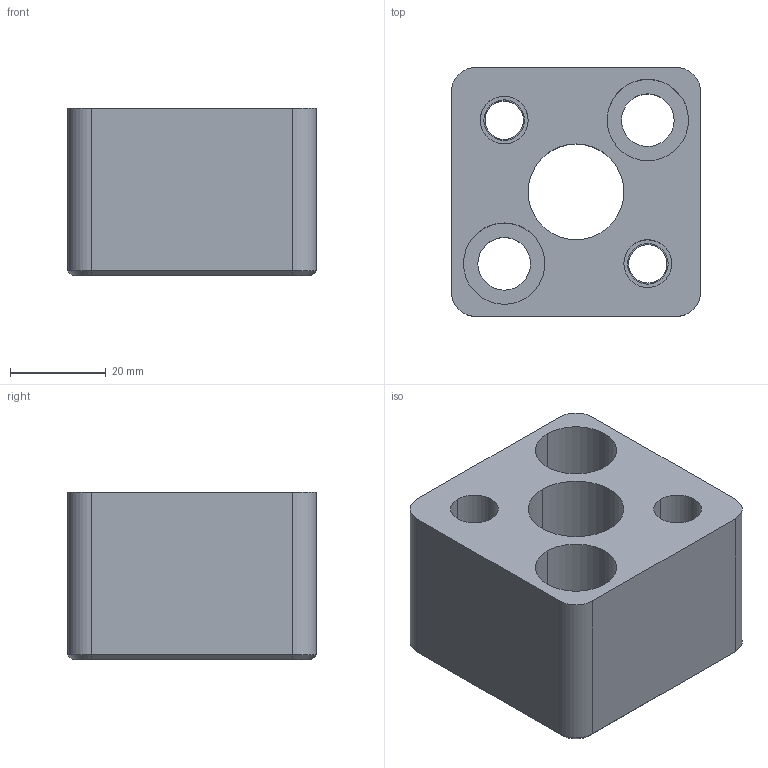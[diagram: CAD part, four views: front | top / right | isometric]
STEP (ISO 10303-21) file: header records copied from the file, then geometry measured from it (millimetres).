
FILE_DESCRIPTION(/* description */ (''),/* implementation_level */ '2;1');
FILE_NAME(/* name */ '3d_hsa-an20_04171_r00.stp',/* time_stamp */ '2011-01-10T14:14:37+09:00',/* author */ ('MISUMI'),/* organization */ (''),/* preprocessor_version */ 'ST-DEVELOPER v11',/* originating_system */ 'UGS - NX 5.0',/* authorisation */ '');
FILE_SCHEMA (('CONFIG_CONTROL_DESIGN'));
Length unit declared in the file: millimetre
Products named in the file (1): 3d_hsa-an20_04171_r00
Bounding box: 52 x 52 x 35 mm (x, y, z)
Volume: 65295.2 mm3; surface area: 18388.3 mm2
Topology: 1 solids, 1 shells, 51 faces, 116 edges, 74 vertices
Faces by surface type: cylinder 28, plane 17, cone 6
Entity records: 1563 total; most frequent: DIRECTION 277, CARTESIAN_POINT 257, ORIENTED_EDGE 232, EDGE_CURVE 116, AXIS2_PLACEMENT_3D 114, VERTEX_POINT 74, EDGE_LOOP 68, CIRCLE 62
